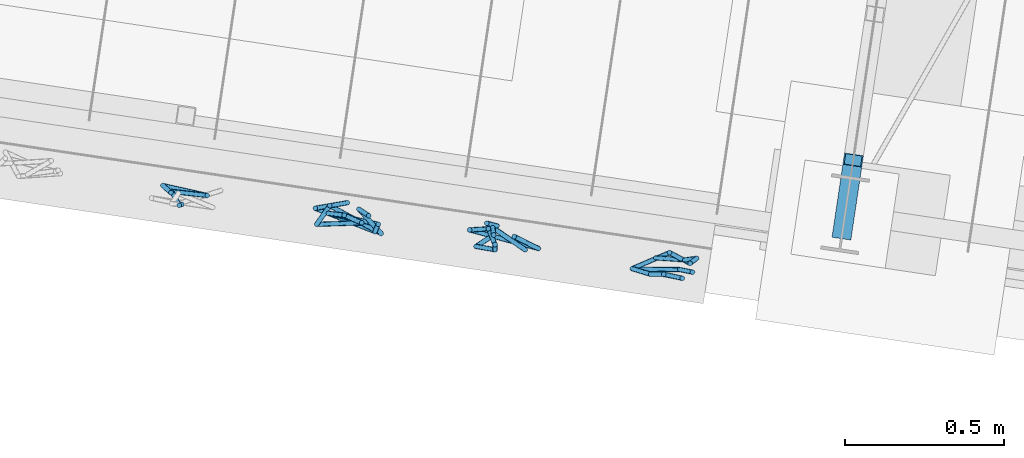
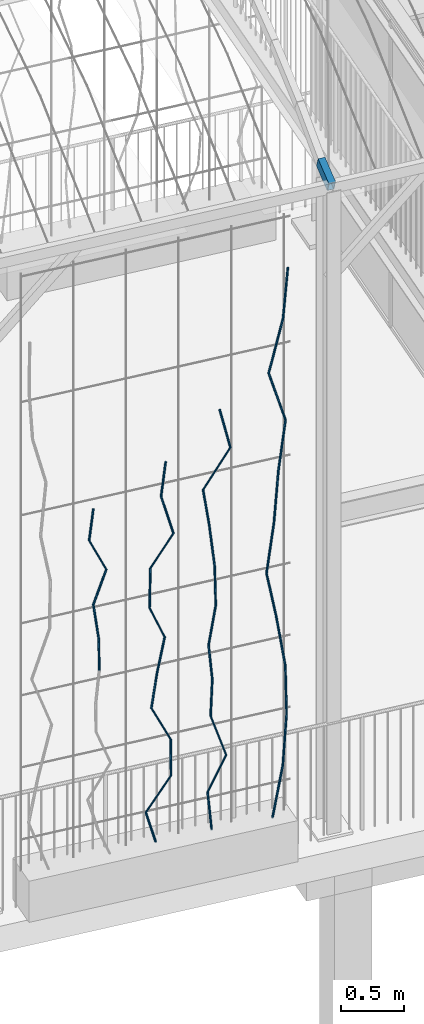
# One storey, part 107 of 142: 39 members, 2 elements without a shape of their own.
"""IFC4 building model written with IfcOpenShell, lengths in metres."""

from ifc_helpers import new_model, si_unit, direction, frame, origin_with_axes, place, context, subcontext, project, spatial, hollow_rectangle, circle, extrude, material, material_profile, profile_set, profile_usage, type_object, element, aggregate, save


model = new_model("IFC4")

# Units and contexts
model_context = context("Model", 3, precision=1e-05, world=origin_with_axes(), true_north=direction((0.0, 1.0)))
body_context = subcontext(model_context, "Body", "Model", "MODEL_VIEW")
ifc_project = project(units=[si_unit("AREAUNIT", "SQUARE_METRE"), si_unit("VOLUMEUNIT", "CUBIC_METRE"), si_unit("LENGTHUNIT", "METRE")], contexts=[model_context])

# Site, building, storey
site_placement = place(None, origin_with_axes())
site = spatial("IfcSite", under=ifc_project, at=site_placement, Name="Lares · Rua das Mercês · artigo 4771")
building_placement = place(site_placement, frame((15.0, 9.7, 14.65), z_axis=(0.0, 0.0, 1.0), x_axis=(0.989015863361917, -0.147809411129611, 0.0)))
building = spatial("IfcBuilding", under=site, at=building_placement, Name="Casa Sobreposta")
storey_placement = place(building_placement, origin_with_axes())
storey = spatial("IfcBuildingStorey", under=building, at=storey_placement, Name="00 · Habitação e estacionamento", Elevation=14.65)

# Assembly, member
assembly_1_placement = place(storey_placement, origin_with_axes())
assembly_1 = element("IfcElementAssembly", 1, at=assembly_1_placement, inside=storey, Name="Pérgola · prolongamento da estufa 6 m", ObjectType="PERGOLA_GREENHOUSE_EXTENSION", PredefinedType="USERDEFINED")
ifc_material_1 = material(Name="Aço pintado / Stahl lackiert", Category="steel")
ifc_material_profile_1 = material_profile(ifc_material_1, hollow_rectangle(XDim=0.06, YDim=0.1, WallThickness=0.004))
ifc_profile_set_1 = profile_set([ifc_material_profile_1], Name="RHS100x60x4")
ifc_profile_usage_1 = profile_usage(ifc_profile_set_1)
member_type_1 = type_object("IfcMemberType", Name="RHS100x60x4 / steel", PredefinedType="NOTDEFINED", material=ifc_profile_set_1)
member_1_placement = place(assembly_1_placement, frame((-3.0, -1.5, 6.23430000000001), z_axis=(0.0, 0.932991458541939, 0.35989851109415), x_axis=(1.0, 0.0, 0.0)))
member_1 = element("IfcMember", 2, at=member_1_placement, type_object=member_type_1, material=ifc_profile_usage_1, Name="Pérgola · arco contínuo com a estufa", context=body_context, shape_type="SweptSolid", body=[
    extrude(hollow_rectangle(XDim=0.06, YDim=0.1, WallThickness=0.004), origin_with_axes(), (0.0, 0.0, 1.0), 0.249032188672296),
])
aggregate(assembly_1, [member_1])

# Assembly, members
assembly_2_placement = place(storey_placement, origin_with_axes())
assembly_2 = element("IfcElementAssembly", 3, at=assembly_2_placement, inside=storey, Name="Fachada sul e pátio · estrutura e trepadeiras", ObjectType="LIVING_SHADE_TRELLIS", PredefinedType="USERDEFINED")
ifc_material_2 = material(Name="Ramos de trepadeiras", Category="wood")
ifc_material_profile_2 = material_profile(ifc_material_2, circle(Radius=0.0075))
ifc_profile_set_2 = profile_set([ifc_material_profile_2], Name="D0.015")
ifc_profile_usage_2 = profile_usage(ifc_profile_set_2)
member_type_2 = type_object("IfcMemberType", Name="D0.015 / vine_wood", PredefinedType="NOTDEFINED", material=ifc_profile_set_2)
member_2_placement = place(assembly_2_placement, frame((-5.07148846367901, -1.71855904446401, 2.21079847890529), z_axis=(-0.0234443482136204, -0.011723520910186, 0.999656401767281), x_axis=(0.99972514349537, -0.00027492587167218, 0.0234427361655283)))
member_2 = element("IfcMember", 4, at=member_2_placement, type_object=member_type_2, material=ifc_profile_usage_2, Name="Trepadeiras · ramo", context=body_context, shape_type="SweptSolid", body=[
    extrude(circle(Radius=0.0075), origin_with_axes(), (0.0, 0.0, 1.0), 0.310239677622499),
])
ifc_profile_usage_3 = profile_usage(ifc_profile_set_2)
member_3_placement = place(assembly_2_placement, frame((-5.07876183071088, -1.72219614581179, 2.52093155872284), z_axis=(-0.0967626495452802, 0.123757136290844, 0.987583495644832), x_axis=(0.787785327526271, 0.615949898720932, 1.09054029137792e-17)))
member_3 = element("IfcMember", 5, at=member_3_placement, type_object=member_type_2, material=ifc_profile_usage_3, Name="Trepadeiras · ramo", context=body_context, shape_type="SweptSolid", body=[
    extrude(circle(Radius=0.0075), origin_with_axes(), (0.0, 0.0, 1.0), 0.31403226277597),
])
ifc_profile_usage_4 = profile_usage(ifc_profile_set_2)
member_4_placement = place(assembly_2_placement, frame((-5.10914842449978, -1.6833324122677, 2.83106463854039), z_axis=(0.341305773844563, 0.0133539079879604, 0.939857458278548), x_axis=(0.0390960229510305, -0.999235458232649, 0.0)))
member_4 = element("IfcMember", 6, at=member_4_placement, type_object=member_type_2, material=ifc_profile_usage_4, Name="Trepadeiras · ramo", context=body_context, shape_type="SweptSolid", body=[
    extrude(circle(Radius=0.0075), origin_with_axes(), (0.0, 0.0, 1.0), 0.329978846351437),
])
ifc_profile_usage_5 = profile_usage(ifc_profile_set_2)
member_5_placement = place(assembly_2_placement, frame((-4.99652473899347, -1.67892590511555, 3.14119771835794), z_axis=(-0.417229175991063, 0.0301594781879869, 0.908300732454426), x_axis=(0.0720970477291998, 0.997397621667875, 0.0)))
member_5 = element("IfcMember", 7, at=member_5_placement, type_object=member_type_2, material=ifc_profile_usage_5, Name="Trepadeiras · ramo", context=body_context, shape_type="SweptSolid", body=[
    extrude(circle(Radius=0.0075), origin_with_axes(), (0.0, 0.0, 1.0), 0.34144316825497),
])
ifc_profile_usage_6 = profile_usage(ifc_profile_set_2)
member_6_placement = place(assembly_2_placement, frame((-5.13898479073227, -1.66862815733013, 3.45133079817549), z_axis=(0.090956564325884, -0.0586912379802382, 0.99412385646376), x_axis=(-0.542189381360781, -0.840256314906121, 7.96559999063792e-18)))
member_6 = element("IfcMember", 8, at=member_6_placement, type_object=member_type_2, material=ifc_profile_usage_6, Name="Trepadeiras · ramo", context=body_context, shape_type="SweptSolid", body=[
    extrude(circle(Radius=0.0075), origin_with_axes(), (0.0, 0.0, 1.0), 0.311966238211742),
])
ifc_profile_usage_7 = profile_usage(ifc_profile_set_2)
member_7_placement = place(assembly_2_placement, frame((-4.55634403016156, -1.63616228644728, 0.35), z_axis=(-0.276433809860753, -0.091900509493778, 0.95662879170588), x_axis=(-0.315473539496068, 0.948934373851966, 0.0)))
member_7 = element("IfcMember", 9, at=member_7_placement, type_object=member_type_2, material=ifc_profile_usage_7, Name="Trepadeiras · ramo", context=body_context, shape_type="SweptSolid", body=[
    extrude(circle(Radius=0.0075), origin_with_axes(), (0.0, 0.0, 1.0), 0.351118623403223),
])
ifc_profile_usage_8 = profile_usage(ifc_profile_set_2)
member_8_placement = place(assembly_2_placement, frame((-4.65340508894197, -1.66843026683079, 0.685890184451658), z_axis=(0.502481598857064, -0.114154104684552, 0.857018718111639), x_axis=(-0.221535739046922, -0.975152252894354, 0.0)))
member_8 = element("IfcMember", 10, at=member_8_placement, type_object=member_type_2, material=ifc_profile_usage_8, Name="Trepadeiras · ramo", context=body_context, shape_type="SweptSolid", body=[
    extrude(circle(Radius=0.0075), origin_with_axes(), (0.0, 0.0, 1.0), 0.391928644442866),
])
ifc_profile_usage_9 = profile_usage(ifc_profile_set_2)
member_9_placement = place(assembly_2_placement, frame((-4.45646815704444, -1.7131705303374, 1.02178036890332), z_axis=(0.0188669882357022, 0.0713857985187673, 0.997270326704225), x_axis=(0.966803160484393, -0.255522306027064, 0.0)))
member_9 = element("IfcMember", 11, at=member_9_placement, type_object=member_type_2, material=ifc_profile_usage_9, Name="Trepadeiras · ramo", context=body_context, shape_type="SweptSolid", body=[
    extrude(circle(Radius=0.0075), origin_with_axes(), (0.0, 0.0, 1.0), 0.336809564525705),
])
ifc_profile_usage_10 = profile_usage(ifc_profile_set_2)
member_10_placement = place(assembly_2_placement, frame((-4.45011357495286, -1.68912711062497, 1.35767055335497), z_axis=(-0.429996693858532, 0.0300139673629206, 0.902331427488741), x_axis=(0.0696310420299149, 0.997572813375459, 0.0)))
member_10 = element("IfcMember", 12, at=member_10_placement, type_object=member_type_2, material=ifc_profile_usage_10, Name="Trepadeiras · ramo", context=body_context, shape_type="SweptSolid", body=[
    extrude(circle(Radius=0.0075), origin_with_axes(), (0.0, 0.0, 1.0), 0.372247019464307),
])
ifc_profile_usage_11 = profile_usage(ifc_profile_set_2)
member_11_placement = place(assembly_2_placement, frame((-4.61017856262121, -1.67795450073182, 1.69356073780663), z_axis=(0.146859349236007, 0.0033807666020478, 0.989151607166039), x_axis=(0.0230143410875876, -0.999735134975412, 0.0)))
member_11 = element("IfcMember", 13, at=member_11_placement, type_object=member_type_2, material=ifc_profile_usage_11, Name="Trepadeiras · ramo", context=body_context, shape_type="SweptSolid", body=[
    extrude(circle(Radius=0.0075), origin_with_axes(), (0.0, 0.0, 1.0), 0.339574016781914),
])
ifc_profile_usage_12 = profile_usage(ifc_profile_set_2)
member_12_placement = place(assembly_2_placement, frame((-4.56030894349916, -1.67680648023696, 2.02945092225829), z_axis=(0.170700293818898, -0.0452708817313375, 0.984282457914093), x_axis=(-0.256345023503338, -0.96658534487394, 0.0)))
member_12 = element("IfcMember", 14, at=member_12_placement, type_object=member_type_2, material=ifc_profile_usage_12, Name="Trepadeiras · ramo", context=body_context, shape_type="SweptSolid", body=[
    extrude(circle(Radius=0.0075), origin_with_axes(), (0.0, 0.0, 1.0), 0.341253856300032),
])
ifc_profile_usage_13 = profile_usage(ifc_profile_set_2)
member_13_placement = place(assembly_2_placement, frame((-4.50205680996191, -1.69225534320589, 2.36534110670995), z_axis=(-0.383356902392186, -0.0703629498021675, 0.920916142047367), x_axis=(-0.180528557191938, 0.983569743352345, 0.0)))
member_13 = element("IfcMember", 15, at=member_13_placement, type_object=member_type_2, material=ifc_profile_usage_13, Name="Trepadeiras · ramo", context=body_context, shape_type="SweptSolid", body=[
    extrude(circle(Radius=0.0075), origin_with_axes(), (0.0, 0.0, 1.0), 0.364734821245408),
])
ifc_profile_usage_14 = profile_usage(ifc_profile_set_2)
member_14_placement = place(assembly_2_placement, frame((-4.64188042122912, -1.71791916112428, 2.7012312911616), z_axis=(0.0946545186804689, 0.187214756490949, 0.977748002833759), x_axis=(0.8924216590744, -0.451202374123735, 0.0)))
member_14 = element("IfcMember", 16, at=member_14_placement, type_object=member_type_2, material=ifc_profile_usage_14, Name="Trepadeiras · ramo", context=body_context, shape_type="SweptSolid", body=[
    extrude(circle(Radius=0.0075), origin_with_axes(), (0.0, 0.0, 1.0), 0.343534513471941),
])
ifc_profile_usage_15 = profile_usage(ifc_profile_set_2)
member_15_placement = place(assembly_2_placement, frame((-4.6093633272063, -1.65360443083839, 3.03712147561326), z_axis=(0.451634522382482, -0.164332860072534, 0.876938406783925), x_axis=(-0.341930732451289, -0.939725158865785, 0.0)))
member_15 = element("IfcMember", 17, at=member_15_placement, type_object=member_type_2, material=ifc_profile_usage_15, Name="Trepadeiras · ramo", context=body_context, shape_type="SweptSolid", body=[
    extrude(circle(Radius=0.0075), origin_with_axes(), (0.0, 0.0, 1.0), 0.383025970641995),
])
ifc_profile_usage_16 = profile_usage(ifc_profile_set_2)
member_16_placement = place(assembly_2_placement, frame((-4.43637557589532, -1.71654818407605, 3.37301166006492), z_axis=(-0.228861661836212, 0.18656509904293, 0.955413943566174), x_axis=(0.631846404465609, 0.775093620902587, -2.24524086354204e-17)))
member_16 = element("IfcMember", 18, at=member_16_placement, type_object=member_type_2, material=ifc_profile_usage_16, Name="Trepadeiras · ramo", context=body_context, shape_type="SweptSolid", body=[
    extrude(circle(Radius=0.0075), origin_with_axes(), (0.0, 0.0, 1.0), 0.35156508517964),
])
ifc_profile_usage_17 = profile_usage(ifc_profile_set_2)
member_17_placement = place(assembly_2_placement, frame((-4.51683534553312, -1.65095840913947, 3.70890184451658), z_axis=(0.0978677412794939, -0.0463181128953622, 0.99412098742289), x_axis=(-0.427782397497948, -0.903881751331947, 0.0)))
member_17 = element("IfcMember", 19, at=member_17_placement, type_object=member_type_2, material=ifc_profile_usage_17, Name="Trepadeiras · ramo", context=body_context, shape_type="SweptSolid", body=[
    extrude(circle(Radius=0.0075), origin_with_axes(), (0.0, 0.0, 1.0), 0.337876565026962),
])
ifc_profile_usage_18 = profile_usage(ifc_profile_set_2)
member_18_placement = place(assembly_2_placement, frame((-4.07927187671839, -1.63851140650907, 0.35), z_axis=(-0.089545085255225, 0.00938715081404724, 0.995938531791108), x_axis=(0.10426023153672, 0.994550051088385, 0.0)))
member_18 = element("IfcMember", 20, at=member_18_placement, type_object=member_type_2, material=ifc_profile_usage_18, Name="Trepadeiras · ramo", context=body_context, shape_type="SweptSolid", body=[
    extrude(circle(Radius=0.0075), origin_with_axes(), (0.0, 0.0, 1.0), 0.372705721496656),
])
ifc_profile_usage_19 = profile_usage(ifc_profile_set_2)
member_19_placement = place(assembly_2_placement, frame((-4.11264584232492, -1.63501276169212, 0.721191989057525), z_axis=(0.333010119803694, -0.163515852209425, 0.928637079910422), x_axis=(-0.440756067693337, -0.897626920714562, 0.0)))
member_19 = element("IfcMember", 21, at=member_19_placement, type_object=member_type_2, material=ifc_profile_usage_19, Name="Trepadeiras · ramo", context=body_context, shape_type="SweptSolid", body=[
    extrude(circle(Radius=0.0075), origin_with_axes(), (0.0, 0.0, 1.0), 0.399716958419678),
])
ifc_profile_usage_20 = profile_usage(ifc_profile_set_2)
member_20_placement = place(assembly_2_placement, frame((-3.97953605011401, -1.70037282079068, 1.09238397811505), z_axis=(-0.285562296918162, 0.137481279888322, 0.948447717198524), x_axis=(0.433785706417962, 0.901016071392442, 0.0)))
member_20 = element("IfcMember", 22, at=member_20_placement, type_object=member_type_2, material=ifc_profile_usage_20, Name="Trepadeiras · ramo", context=body_context, shape_type="SweptSolid", body=[
    extrude(circle(Radius=0.0075), origin_with_axes(), (0.0, 0.0, 1.0), 0.391367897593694),
])
ifc_profile_usage_21 = profile_usage(ifc_profile_set_2)
member_21_placement = place(assembly_2_placement, frame((-4.0912959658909, -1.64656706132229, 1.46357596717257), z_axis=(0.0152066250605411, -0.0596993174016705, 0.998100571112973), x_axis=(-0.969056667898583, -0.246838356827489, 0.0)))
member_21 = element("IfcMember", 23, at=member_21_placement, type_object=member_type_2, material=ifc_profile_usage_21, Name="Trepadeiras · ramo", context=body_context, shape_type="SweptSolid", body=[
    extrude(circle(Radius=0.0075), origin_with_axes(), (0.0, 0.0, 1.0), 0.371898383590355),
])
ifc_profile_usage_22 = profile_usage(ifc_profile_set_2)
member_22_placement = place(assembly_2_placement, frame((-4.08564064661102, -1.66876914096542, 1.8347679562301), z_axis=(-0.130512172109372, -0.116153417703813, 0.984619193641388), x_axis=(-0.664819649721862, 0.747003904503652, -9.77620742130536e-18)))
member_22 = element("IfcMember", 24, at=member_22_placement, type_object=member_type_2, material=ifc_profile_usage_22, Name="Trepadeiras · ramo", context=body_context, shape_type="SweptSolid", body=[
    extrude(circle(Radius=0.0075), origin_with_axes(), (0.0, 0.0, 1.0), 0.376990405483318),
])
ifc_profile_usage_23 = profile_usage(ifc_profile_set_2)
member_23_placement = place(assembly_2_placement, frame((-4.13484248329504, -1.71255786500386, 2.20595994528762), z_axis=(0.161271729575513, -0.00372461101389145, 0.986903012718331), x_axis=(-0.0230890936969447, -0.99973341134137, 0.0)))
member_23 = element("IfcMember", 25, at=member_23_placement, type_object=member_type_2, material=ifc_profile_usage_23, Name="Trepadeiras · ramo", context=body_context, shape_type="SweptSolid", body=[
    extrude(circle(Radius=0.0075), origin_with_axes(), (0.0, 0.0, 1.0), 0.376118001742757),
])
ifc_profile_usage_24 = profile_usage(ifc_profile_set_2)
member_24_placement = place(assembly_2_placement, frame((-4.0741852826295, -1.71395875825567, 2.57715193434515), z_axis=(-0.00656626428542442, 0.0434886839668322, 0.999032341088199), x_axis=(0.99997844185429, 0.000285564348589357, 0.00656005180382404)))
member_24 = element("IfcMember", 26, at=member_24_placement, type_object=member_type_2, material=ifc_profile_usage_24, Name="Trepadeiras · ramo", context=body_context, shape_type="SweptSolid", body=[
    extrude(circle(Radius=0.0075), origin_with_axes(), (0.0, 0.0, 1.0), 0.371551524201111),
])
ifc_profile_usage_25 = profile_usage(ifc_profile_set_2)
member_25_placement = place(assembly_2_placement, frame((-4.07662498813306, -1.69780047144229, 2.94834392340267), z_axis=(-0.074266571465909, 0.123113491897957, 0.989609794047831), x_axis=(0.856267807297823, 0.516532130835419, 0.0)))
member_25 = element("IfcMember", 27, at=member_25_placement, type_object=member_type_2, material=ifc_profile_usage_25, Name="Trepadeiras · ramo", context=body_context, shape_type="SweptSolid", body=[
    extrude(circle(Radius=0.0075), origin_with_axes(), (0.0, 0.0, 1.0), 0.375089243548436),
])
ifc_profile_usage_26 = profile_usage(ifc_profile_set_2)
member_26_placement = place(assembly_2_placement, frame((-4.10448158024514, -1.65162192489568, 3.3195359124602), z_axis=(-0.154338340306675, -0.0328328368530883, 0.987472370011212), x_axis=(-0.20807667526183, 0.978112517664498, 0.0)))
member_26 = element("IfcMember", 28, at=member_26_placement, type_object=member_type_2, material=ifc_profile_usage_26, Name="Trepadeiras · ramo", context=body_context, shape_type="SweptSolid", body=[
    extrude(circle(Radius=0.0075), origin_with_axes(), (0.0, 0.0, 1.0), 0.375901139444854),
])
ifc_profile_usage_27 = profile_usage(ifc_profile_set_2)
member_27_placement = place(assembly_2_placement, frame((-4.16249753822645, -1.66396382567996, 3.69072790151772), z_axis=(0.514081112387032, -0.0596918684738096, 0.855662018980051), x_axis=(-0.115338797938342, -0.993326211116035, 0.0)))
member_27 = element("IfcMember", 29, at=member_27_placement, type_object=member_type_2, material=ifc_profile_usage_27, Name="Trepadeiras · ramo", context=body_context, shape_type="SweptSolid", body=[
    extrude(circle(Radius=0.0075), origin_with_axes(), (0.0, 0.0, 1.0), 0.433806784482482),
])
ifc_profile_usage_28 = profile_usage(ifc_profile_set_2)
member_28_placement = place(assembly_2_placement, frame((-3.93948566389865, -1.68985856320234, 4.06191989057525), z_axis=(-0.213455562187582, 0.0677286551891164, 0.974602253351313), x_axis=(0.302437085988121, 0.953169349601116, 0.0)))
member_28 = element("IfcMember", 30, at=member_28_placement, type_object=member_type_2, material=ifc_profile_usage_28, Name="Trepadeiras · ramo", context=body_context, shape_type="SweptSolid", body=[
    extrude(circle(Radius=0.0075), origin_with_axes(), (0.0, 0.0, 1.0), 0.380865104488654),
])
ifc_profile_usage_29 = profile_usage(ifc_profile_set_2)
member_29_placement = place(assembly_2_placement, frame((-3.56958320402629, -1.66459777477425, 0.35), z_axis=(0.186085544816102, 0.0151258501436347, 0.982417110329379), x_axis=(0.0810171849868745, -0.99671270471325, 0.0)))
member_29 = element("IfcMember", 31, at=member_29_placement, type_object=member_type_2, material=ifc_profile_usage_29, Name="Trepadeiras · ramo", context=body_context, shape_type="SweptSolid", body=[
    extrude(circle(Radius=0.0075), origin_with_axes(), (0.0, 0.0, 1.0), 0.493502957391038),
])
ifc_profile_usage_30 = profile_usage(ifc_profile_set_2)
member_30_placement = place(assembly_2_placement, frame((-3.47774943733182, -1.65713312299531, 0.834825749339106), z_axis=(0.0738530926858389, 0.0207066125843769, 0.997054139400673), x_axis=(0.269965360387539, -0.96287003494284, 0.0)))
member_30 = element("IfcMember", 32, at=member_30_placement, type_object=member_type_2, material=ifc_profile_usage_30, Name="Trepadeiras · ramo", context=body_context, shape_type="SweptSolid", body=[
    extrude(circle(Radius=0.0075), origin_with_axes(), (0.0, 0.0, 1.0), 0.486258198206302),
])
ifc_profile_usage_31 = profile_usage(ifc_profile_set_2)
member_31_placement = place(assembly_2_placement, frame((-3.44183776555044, -1.64706436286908, 1.31965149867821), z_axis=(-0.0373703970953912, -0.0379373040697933, 0.998581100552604), x_axis=(-0.712409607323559, 0.701763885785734, 0.0)))
member_31 = element("IfcMember", 33, at=member_31_placement, type_object=member_type_2, material=ifc_profile_usage_31, Name="Trepadeiras · ramo", context=body_context, shape_type="SweptSolid", body=[
    extrude(circle(Radius=0.0075), origin_with_axes(), (0.0, 0.0, 1.0), 0.485514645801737),
])
ifc_profile_usage_32 = profile_usage(ifc_profile_set_2)
member_32_placement = place(assembly_2_placement, frame((-3.45998164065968, -1.6654834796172, 1.80447724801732), z_axis=(-0.140931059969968, 0.0483273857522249, 0.988839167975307), x_axis=(0.324373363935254, 0.945929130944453, 0.0)))
member_32 = element("IfcMember", 34, at=member_32_placement, type_object=member_type_2, material=ifc_profile_usage_32, Name="Trepadeiras · ramo", context=body_context, shape_type="SweptSolid", body=[
    extrude(circle(Radius=0.0075), origin_with_axes(), (0.0, 0.0, 1.0), 0.490297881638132),
])
ifc_profile_usage_33 = profile_usage(ifc_profile_set_2)
member_33_placement = place(assembly_2_placement, frame((-3.52907984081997, -1.64178866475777, 2.28930299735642), z_axis=(-0.217013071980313, -0.13403938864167, 0.966922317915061), x_axis=(-0.525498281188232, 0.850794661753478, 0.0)))
member_33 = element("IfcMember", 35, at=member_33_placement, type_object=member_type_2, material=ifc_profile_usage_33, Name="Trepadeiras · ramo", context=body_context, shape_type="SweptSolid", body=[
    extrude(circle(Radius=0.0075), origin_with_axes(), (0.0, 0.0, 1.0), 0.501411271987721),
])
ifc_profile_usage_34 = profile_usage(ifc_profile_set_2)
member_34_placement = place(assembly_2_placement, frame((-3.63789264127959, -1.70899752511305, 2.77412874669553), z_axis=(0.12363822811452, -0.0183336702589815, 0.992157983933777), x_axis=(-0.146680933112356, -0.989183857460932, 0.0)))
member_34 = element("IfcMember", 36, at=member_34_placement, type_object=member_type_2, material=ifc_profile_usage_34, Name="Trepadeiras · ramo", context=body_context, shape_type="SweptSolid", body=[
    extrude(circle(Radius=0.0075), origin_with_axes(), (0.0, 0.0, 1.0), 0.488657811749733),
])
ifc_profile_usage_35 = profile_usage(ifc_profile_set_2)
member_35_placement = place(assembly_2_placement, frame((-3.57747585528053, -1.71795641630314, 3.25895449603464), z_axis=(0.0824881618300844, 0.0132015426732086, 0.996504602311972), x_axis=(0.158030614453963, -0.987434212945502, 0.0)))
member_35 = element("IfcMember", 37, at=member_35_placement, type_object=member_type_2, material=ifc_profile_usage_35, Name="Trepadeiras · ramo", context=body_context, shape_type="SweptSolid", body=[
    extrude(circle(Radius=0.0075), origin_with_axes(), (0.0, 0.0, 1.0), 0.486526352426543),
])
ifc_profile_usage_36 = profile_usage(ifc_profile_set_2)
member_36_placement = place(assembly_2_placement, frame((-3.53734319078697, -1.71153351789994, 3.74378024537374), z_axis=(0.122461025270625, -0.00831900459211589, 0.992438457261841), x_axis=(-0.0677756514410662, -0.997700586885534, 0.0)))
member_36 = element("IfcMember", 38, at=member_36_placement, type_object=member_type_2, material=ifc_profile_usage_36, Name="Trepadeiras · ramo", context=body_context, shape_type="SweptSolid", body=[
    extrude(circle(Radius=0.0075), origin_with_axes(), (0.0, 0.0, 1.0), 0.488519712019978),
])
ifc_profile_usage_37 = profile_usage(ifc_profile_set_2)
member_37_placement = place(assembly_2_placement, frame((-3.47751856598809, -1.71559751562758, 4.22860599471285), z_axis=(-0.280111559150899, 0.0149804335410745, 0.959850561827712), x_axis=(0.0534039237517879, 0.998572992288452, 0.0)))
member_37 = element("IfcMember", 39, at=member_37_placement, type_object=member_type_2, material=ifc_profile_usage_37, Name="Trepadeiras · ramo", context=body_context, shape_type="SweptSolid", body=[
    extrude(circle(Radius=0.0075), origin_with_axes(), (0.0, 0.0, 1.0), 0.505105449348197),
])
ifc_profile_usage_38 = profile_usage(ifc_profile_set_2)
member_38_placement = place(assembly_2_placement, frame((-3.61900444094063, -1.70803081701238, 4.71343174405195), z_axis=(0.258565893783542, 0.0363178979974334, 0.965310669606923), x_axis=(0.139093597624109, -0.990279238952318, 0.0)))
member_38 = element("IfcMember", 40, at=member_38_placement, type_object=member_type_2, material=ifc_profile_usage_38, Name="Trepadeiras · ramo", context=body_context, shape_type="SweptSolid", body=[
    extrude(circle(Radius=0.0075), origin_with_axes(), (0.0, 0.0, 1.0), 0.502248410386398),
])
ifc_profile_usage_39 = profile_usage(ifc_profile_set_2)
member_39_placement = place(assembly_2_placement, frame((-3.48914013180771, -1.6897902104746, 5.19825749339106), z_axis=(0.0834842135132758, -0.00407642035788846, 0.996500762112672), x_axis=(-0.0487705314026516, -0.998810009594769, 0.0)))
member_39 = element("IfcMember", 41, at=member_39_placement, type_object=member_type_2, material=ifc_profile_usage_39, Name="Trepadeiras · ramo", context=body_context, shape_type="SweptSolid", body=[
    extrude(circle(Radius=0.0075), origin_with_axes(), (0.0, 0.0, 1.0), 0.486528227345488),
])
aggregate(assembly_2, [member_2, member_3, member_4, member_5, member_6, member_7, member_8, member_9, member_10, member_11, member_12, member_13, member_14, member_15, member_16, member_17, member_18, member_19, member_20, member_21, member_22, member_23, member_24, member_25, member_26, member_27, member_28, member_29, member_30, member_31, member_32, member_33, member_34, member_35, member_36, member_37, member_38, member_39])

save(model, "model.ifc")
